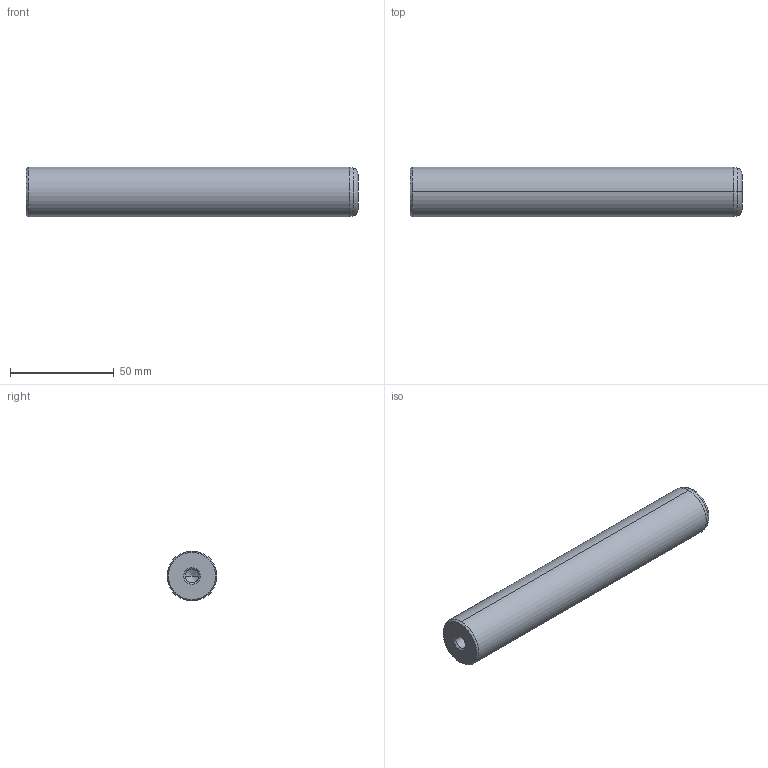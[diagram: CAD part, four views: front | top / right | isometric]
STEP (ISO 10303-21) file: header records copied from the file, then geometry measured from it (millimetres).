
FILE_DESCRIPTION(('CATIA V5 STEP Exchange'),'2;1');
FILE_NAME('C:\Users\Utente\Desktop\IO LAVORO\3D X SITO CF\X SITO\720\720-24x160.stp','2021-01-01T12:53:08+00:00',('none'),('none'),'CATIA Version 5 Release 20 GA (IN-10)','CATIA V5 STEP AP203','none');
FILE_SCHEMA(('CONFIG_CONTROL_DESIGN'));
Length unit declared in the file: millimetre
Products named in the file (1): 720-24x160
Bounding box: 160 x 24 x 24 mm (x, y, z)
Volume: 70416.4 mm3; surface area: 13803.8 mm2
Topology: 1 solids, 1 shells, 22 faces, 56 edges, 34 vertices
Faces by surface type: cone 12, cylinder 6, plane 2, torus 2
Entity records: 755 total; most frequent: CARTESIAN_POINT 216, ORIENTED_EDGE 104, DIRECTION 89, EDGE_CURVE 52, AXIS2_PLACEMENT_3D 50, VERTEX_POINT 34, CIRCLE 27, EDGE_LOOP 24
